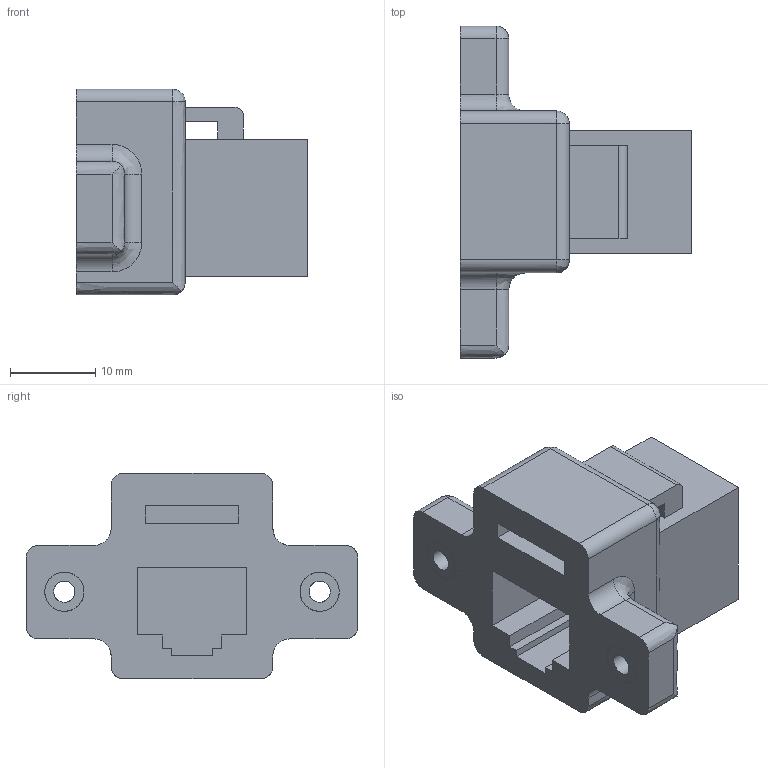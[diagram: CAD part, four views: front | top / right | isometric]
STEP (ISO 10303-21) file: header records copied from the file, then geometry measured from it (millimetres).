
FILE_DESCRIPTION( ('This file contains a STEP AP42 implementation' ,'as created by ZW3D STEP Interface translator.') ,'2;1' );
FILE_NAME( 'TB-006-FCAX-FAXF-C01C_SD.stp' ,'26 320. 94943', (''), ('ZWCAD Software Co.'), 'Version 1.0', 'ZW3D to STEP translator', '' );
FILE_SCHEMA(('AUTOMOTIVE_DESIGN'));
Length unit declared in the file: millimetre
Products named in the file (2): 0; TB-006-FCAX-FAXF-C01C_SD
Bounding box: 27.2 x 39 x 24.2 mm (x, y, z)
Volume: 7939.2 mm3; surface area: 4848 mm2
Topology: 1 solids, 1 shells, 95 faces, 243 edges, 155 vertices
Faces by surface type: bspline 95
Entity records: 4978 total; most frequent: CARTESIAN_POINT 3351, ORIENTED_EDGE 486, B_SPLINE_CURVE_WITH_KNOTS 243, EDGE_CURVE 243, VERTEX_POINT 155, EDGE_LOOP 108, FACE_OUTER_BOUND 95, ADVANCED_FACE 95
